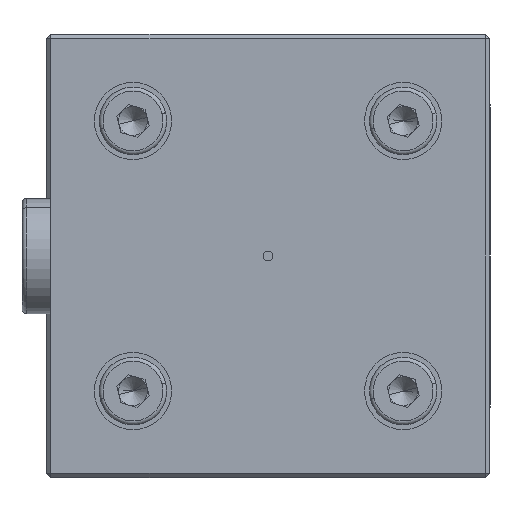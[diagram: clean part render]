
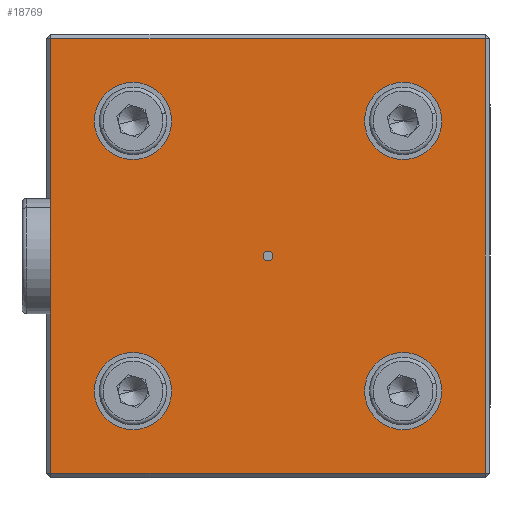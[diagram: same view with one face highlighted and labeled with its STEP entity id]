
A CAD part, left-side view. The second image highlights one B-rep face of the part: STEP entity #18769.
In plain terms, the highlighted planar face has unit normal (-1, 0, 0).
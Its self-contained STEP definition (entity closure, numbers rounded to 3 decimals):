
#627 = VERTEX_POINT ( 'NONE', #25046 ) ;
#929 = CIRCLE ( 'NONE', #68312, 4. ) ;
#981 = CARTESIAN_POINT ( 'NONE',  ( -20.8, 14., 14. ) ) ;
#1604 = DIRECTION ( 'NONE',  ( -1., 0., 0. ) ) ;
#1907 = VECTOR ( 'NONE', #4563, 1000. ) ;
#2578 = VERTEX_POINT ( 'NONE', #46990 ) ;
#2870 = DIRECTION ( 'NONE',  ( 0., 0., 1. ) ) ;
#3941 = EDGE_CURVE ( 'NONE', #34257, #31696, #57693, .T. ) ;
#4563 = DIRECTION ( 'NONE',  ( 0., -1., 0. ) ) ;
#4787 = CARTESIAN_POINT ( 'NONE',  ( -20.8, 14., 14. ) ) ;
#5100 = EDGE_CURVE ( 'NONE', #2578, #24953, #20678, .T. ) ;
#5120 = EDGE_CURVE ( 'NONE', #60321, #59865, #49637, .T. ) ;
#5643 = AXIS2_PLACEMENT_3D ( 'NONE', #44601, #11946, #50060 ) ;
#5956 = ORIENTED_EDGE ( 'NONE', *, *, #21220, .F. ) ;
#6132 = EDGE_LOOP ( 'NONE', ( #51475, #67210 ) ) ;
#6448 = DIRECTION ( 'NONE',  ( 0., 0., 1. ) ) ;
#7013 = AXIS2_PLACEMENT_3D ( 'NONE', #34134, #1604, #39617 ) ;
#7093 = CIRCLE ( 'NONE', #56810, 0.5 ) ;
#7197 = AXIS2_PLACEMENT_3D ( 'NONE', #28563, #66665, #34049 ) ;
#7505 = ORIENTED_EDGE ( 'NONE', *, *, #26525, .F. ) ;
#7556 = AXIS2_PLACEMENT_3D ( 'NONE', #12384, #50486, #17867 ) ;
#8071 = CIRCLE ( 'NONE', #18989, 4. ) ;
#8165 = CARTESIAN_POINT ( 'NONE',  ( -20.8, -14., 14. ) ) ;
#8174 = CIRCLE ( 'NONE', #32455, 4. ) ;
#10216 = DIRECTION ( 'NONE',  ( 0., 0., 1. ) ) ;
#10729 = CARTESIAN_POINT ( 'NONE',  ( -20.8, 14., 18. ) ) ;
#10923 = ORIENTED_EDGE ( 'NONE', *, *, #26216, .F. ) ;
#11536 = CARTESIAN_POINT ( 'NONE',  ( -20.8, -14., -18. ) ) ;
#11893 = EDGE_CURVE ( 'NONE', #46215, #56324, #29077, .T. ) ;
#11946 = DIRECTION ( 'NONE',  ( -1., 0., 0. ) ) ;
#12384 = CARTESIAN_POINT ( 'NONE',  ( -20.8, 14., -14. ) ) ;
#12794 = FACE_BOUND ( 'NONE', #43863, .T. ) ;
#13311 = CARTESIAN_POINT ( 'NONE',  ( -20.8, 22.5, 22.5 ) ) ;
#13616 = DIRECTION ( 'NONE',  ( 0., 0., 1. ) ) ;
#14451 = CARTESIAN_POINT ( 'NONE',  ( -20.8, 14., -10. ) ) ;
#14628 = ORIENTED_EDGE ( 'NONE', *, *, #67740, .F. ) ;
#15618 = ORIENTED_EDGE ( 'NONE', *, *, #5100, .F. ) ;
#16160 = EDGE_LOOP ( 'NONE', ( #5956, #21408 ) ) ;
#16351 = CARTESIAN_POINT ( 'NONE',  ( -20.8, 22.5, 22.5 ) ) ;
#16636 = VERTEX_POINT ( 'NONE', #14451 ) ;
#16815 = CARTESIAN_POINT ( 'NONE',  ( -20.8, 14., -14. ) ) ;
#17227 = CIRCLE ( 'NONE', #7556, 4. ) ;
#17867 = DIRECTION ( 'NONE',  ( 0., 0., 1. ) ) ;
#18030 = LINE ( 'NONE', #26173, #1907 ) ;
#18257 = EDGE_LOOP ( 'NONE', ( #25101, #15618 ) ) ;
#18769 = ADVANCED_FACE ( 'NONE', ( #68989, #12794, #54512, #40040, #25546, #27235 ), #39291, .T. ) ;
#18867 = LINE ( 'NONE', #63822, #46174 ) ;
#18989 = AXIS2_PLACEMENT_3D ( 'NONE', #16815, #54893, #22295 ) ;
#19068 = CARTESIAN_POINT ( 'NONE',  ( -20.8, -22.5, 22.5 ) ) ;
#20678 = CIRCLE ( 'NONE', #65229, 4. ) ;
#21220 = EDGE_CURVE ( 'NONE', #64322, #53476, #25631, .T. ) ;
#21408 = ORIENTED_EDGE ( 'NONE', *, *, #45547, .F. ) ;
#21522 = CARTESIAN_POINT ( 'NONE',  ( -20.8, -14., 14. ) ) ;
#22295 = DIRECTION ( 'NONE',  ( 0., 0., 1. ) ) ;
#22816 = CARTESIAN_POINT ( 'NONE',  ( -20.8, 22.5, -22.5 ) ) ;
#23408 = ORIENTED_EDGE ( 'NONE', *, *, #39903, .F. ) ;
#24292 = DIRECTION ( 'NONE',  ( 0., 0., -1. ) ) ;
#24953 = VERTEX_POINT ( 'NONE', #38166 ) ;
#25046 = CARTESIAN_POINT ( 'NONE',  ( -20.8, 14., -18. ) ) ;
#25101 = ORIENTED_EDGE ( 'NONE', *, *, #59677, .F. ) ;
#25546 = FACE_BOUND ( 'NONE', #6132, .T. ) ;
#25631 = CIRCLE ( 'NONE', #7013, 0.5 ) ;
#26173 = CARTESIAN_POINT ( 'NONE',  ( -20.8, -22.5, 22.5 ) ) ;
#26216 = EDGE_CURVE ( 'NONE', #66381, #61990, #26865, .T. ) ;
#26525 = EDGE_CURVE ( 'NONE', #627, #16636, #8071, .T. ) ;
#26865 = LINE ( 'NONE', #13311, #39661 ) ;
#26973 = DIRECTION ( 'NONE',  ( 0., 0., 1. ) ) ;
#27235 = FACE_OUTER_BOUND ( 'NONE', #40787, .T. ) ;
#27777 = CARTESIAN_POINT ( 'NONE',  ( -20.8, -14., -10. ) ) ;
#28165 = EDGE_CURVE ( 'NONE', #59865, #66381, #18867, .T. ) ;
#28563 = CARTESIAN_POINT ( 'NONE',  ( -20.8, 22.5, -22.5 ) ) ;
#29077 = CIRCLE ( 'NONE', #5643, 4. ) ;
#29268 = ORIENTED_EDGE ( 'NONE', *, *, #5120, .F. ) ;
#31373 = DIRECTION ( 'NONE',  ( -1., 0., 0. ) ) ;
#31696 = VERTEX_POINT ( 'NONE', #55310 ) ;
#31902 = DIRECTION ( 'NONE',  ( -1., 0., 0. ) ) ;
#32142 = CARTESIAN_POINT ( 'NONE',  ( -20.8, -0.5, 0. ) ) ;
#32455 = AXIS2_PLACEMENT_3D ( 'NONE', #21522, #59602, #26973 ) ;
#33862 = CARTESIAN_POINT ( 'NONE',  ( -20.8, -22.5, -22.5 ) ) ;
#34049 = DIRECTION ( 'NONE',  ( 0., 0., 1. ) ) ;
#34134 = CARTESIAN_POINT ( 'NONE',  ( -20.8, 0., 0. ) ) ;
#34257 = VERTEX_POINT ( 'NONE', #10729 ) ;
#36298 = ORIENTED_EDGE ( 'NONE', *, *, #61360, .F. ) ;
#36906 = ORIENTED_EDGE ( 'NONE', *, *, #28165, .F. ) ;
#38166 = CARTESIAN_POINT ( 'NONE',  ( -20.8, -14., 18. ) ) ;
#39004 = DIRECTION ( 'NONE',  ( -1., 0., 0. ) ) ;
#39291 = PLANE ( 'NONE',  #7197 ) ;
#39617 = DIRECTION ( 'NONE',  ( 0., -1., 0. ) ) ;
#39661 = VECTOR ( 'NONE', #2870, 1000. ) ;
#39903 = EDGE_CURVE ( 'NONE', #16636, #627, #17227, .T. ) ;
#40040 = FACE_BOUND ( 'NONE', #18257, .T. ) ;
#40787 = EDGE_LOOP ( 'NONE', ( #36906, #29268, #14628, #10923 ) ) ;
#42858 = DIRECTION ( 'NONE',  ( -1., 0., 0. ) ) ;
#43863 = EDGE_LOOP ( 'NONE', ( #23408, #7505 ) ) ;
#44583 = EDGE_LOOP ( 'NONE', ( #51122, #36298 ) ) ;
#44601 = CARTESIAN_POINT ( 'NONE',  ( -20.8, -14., -14. ) ) ;
#45547 = EDGE_CURVE ( 'NONE', #53476, #64322, #7093, .T. ) ;
#46174 = VECTOR ( 'NONE', #63579, 1000. ) ;
#46215 = VERTEX_POINT ( 'NONE', #27777 ) ;
#46255 = DIRECTION ( 'NONE',  ( -1., 0., 0. ) ) ;
#46990 = CARTESIAN_POINT ( 'NONE',  ( -20.8, -14., 10. ) ) ;
#47958 = VECTOR ( 'NONE', #24292, 1000. ) ;
#49637 = LINE ( 'NONE', #19068, #47958 ) ;
#50060 = DIRECTION ( 'NONE',  ( 0., 0., 1. ) ) ;
#50486 = DIRECTION ( 'NONE',  ( -1., 0., 0. ) ) ;
#51122 = ORIENTED_EDGE ( 'NONE', *, *, #3941, .F. ) ;
#51475 = ORIENTED_EDGE ( 'NONE', *, *, #11893, .F. ) ;
#52354 = CIRCLE ( 'NONE', #68618, 4. ) ;
#53476 = VERTEX_POINT ( 'NONE', #66704 ) ;
#54512 = FACE_BOUND ( 'NONE', #44583, .T. ) ;
#54893 = DIRECTION ( 'NONE',  ( -1., 0., 0. ) ) ;
#55310 = CARTESIAN_POINT ( 'NONE',  ( -20.8, 14., 10. ) ) ;
#56324 = VERTEX_POINT ( 'NONE', #11536 ) ;
#56810 = AXIS2_PLACEMENT_3D ( 'NONE', #63986, #31373, #69451 ) ;
#57693 = CIRCLE ( 'NONE', #64174, 4. ) ;
#59602 = DIRECTION ( 'NONE',  ( -1., 0., 0. ) ) ;
#59677 = EDGE_CURVE ( 'NONE', #24953, #2578, #8174, .T. ) ;
#59752 = CARTESIAN_POINT ( 'NONE',  ( -20.8, -22.5, 22.5 ) ) ;
#59865 = VERTEX_POINT ( 'NONE', #33862 ) ;
#60321 = VERTEX_POINT ( 'NONE', #59752 ) ;
#61360 = EDGE_CURVE ( 'NONE', #31696, #34257, #52354, .T. ) ;
#61990 = VERTEX_POINT ( 'NONE', #16351 ) ;
#62946 = EDGE_CURVE ( 'NONE', #56324, #46215, #929, .T. ) ;
#63579 = DIRECTION ( 'NONE',  ( 0., 1., 0. ) ) ;
#63822 = CARTESIAN_POINT ( 'NONE',  ( -20.8, -22.5, -22.5 ) ) ;
#63986 = CARTESIAN_POINT ( 'NONE',  ( -20.8, 0., 0. ) ) ;
#64174 = AXIS2_PLACEMENT_3D ( 'NONE', #981, #39004, #6448 ) ;
#64322 = VERTEX_POINT ( 'NONE', #32142 ) ;
#64515 = CARTESIAN_POINT ( 'NONE',  ( -20.8, -14., -14. ) ) ;
#65229 = AXIS2_PLACEMENT_3D ( 'NONE', #8165, #46255, #13616 ) ;
#66381 = VERTEX_POINT ( 'NONE', #22816 ) ;
#66665 = DIRECTION ( 'NONE',  ( -1., 0., 0. ) ) ;
#66704 = CARTESIAN_POINT ( 'NONE',  ( -20.8, 0.5, 0. ) ) ;
#67210 = ORIENTED_EDGE ( 'NONE', *, *, #62946, .F. ) ;
#67740 = EDGE_CURVE ( 'NONE', #61990, #60321, #18030, .T. ) ;
#68312 = AXIS2_PLACEMENT_3D ( 'NONE', #64515, #31902, #69976 ) ;
#68618 = AXIS2_PLACEMENT_3D ( 'NONE', #4787, #42858, #10216 ) ;
#68989 = FACE_BOUND ( 'NONE', #16160, .T. ) ;
#69451 = DIRECTION ( 'NONE',  ( 0., -1., 0. ) ) ;
#69976 = DIRECTION ( 'NONE',  ( 0., 0., 1. ) ) ;
